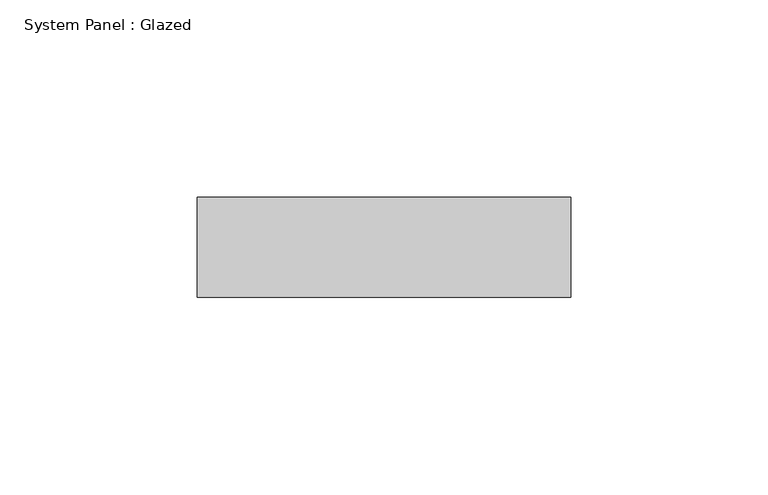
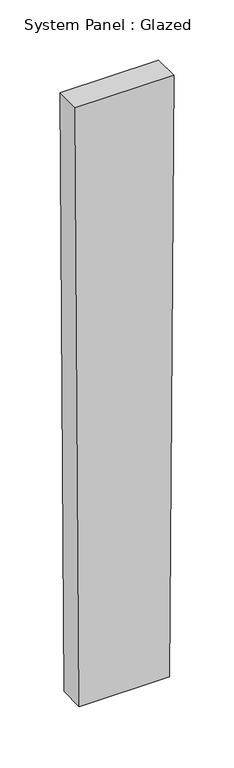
"""IFC4 building model written with IfcOpenShell, lengths in millimetres: plate geometry, System Panel : Glazed."""

from ifc_helpers import new_model, si_unit, frame, origin, place, context, project, spatial, polyline, outline, extrude, source, transform, mapped, element, save


def system_panel_glazed_fc5e8a38(model_context):
    return source(origin(), model_context, "Body", "SweptSolid", [
        extrude(outline(polyline([(0.0, -43.4317026), (0.0, 43.4317026), (609.586923, 47.4246064), (609.586923, -47.4246064), (0.0, -43.4317026)])), frame((0.0, -44.45, 0.0), z_axis=(0.0, 1.0, 0.0), x_axis=(0.0, 0.0, 1.0)), (0.0, 0.0, 1.0), 25.4),
    ])


if __name__ == "__main__":
    model = new_model("IFC4")
    model_context = context("Model", 3, world=origin())
    ifc_project = project(units=[si_unit("LENGTHUNIT", "METRE", prefix="MILLI")], contexts=[model_context])
    site = spatial("IfcSite", under=ifc_project)
    building = spatial("IfcBuilding", under=site)
    placement = place(None, origin())
    system_panel_glazed_shape = system_panel_glazed_fc5e8a38(model_context)
    element("IfcPlate", 1, ObjectType="System Panel : Glazed", at=placement, inside=building, context=model_context, shape_type="MappedRepresentation", body=[
        mapped(system_panel_glazed_shape, transform((0.0, 0.0, 0.0), x_axis=(1.0, 0.0, 0.0), y_axis=(0.0, 1.0, 0.0), z_axis=(0.0, 0.0, 1.0))),
    ])
    save(model, "model.ifc")
